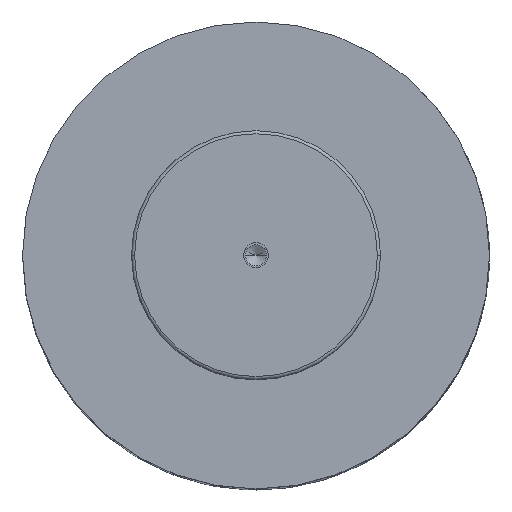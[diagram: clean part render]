
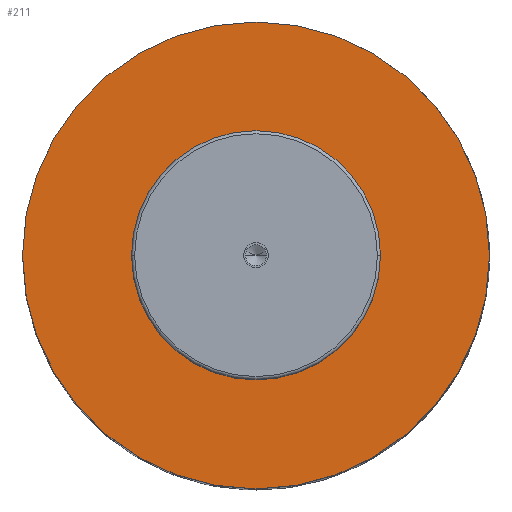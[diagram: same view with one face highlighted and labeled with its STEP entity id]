
A CAD part, top view. The second image highlights one B-rep face of the part: STEP entity #211.
In plain terms, the highlighted planar face has unit normal (0, 0, 1).
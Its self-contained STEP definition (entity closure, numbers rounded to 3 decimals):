
#109=PLANE('',#1266);
#138=FACE_BOUND('',#359,.T.);
#139=FACE_BOUND('',#360,.T.);
#211=ADVANCED_FACE('',(#138,#139),#109,.T.);
#359=EDGE_LOOP('',(#571,#572));
#360=EDGE_LOOP('',(#573,#574));
#451=CIRCLE('',#1260,40.);
#452=CIRCLE('',#1262,40.);
#453=CIRCLE('',#1264,75.);
#454=CIRCLE('',#1265,75.);
#571=ORIENTED_EDGE('',*,*,#970,.F.);
#572=ORIENTED_EDGE('',*,*,#971,.F.);
#573=ORIENTED_EDGE('',*,*,#969,.T.);
#574=ORIENTED_EDGE('',*,*,#967,.T.);
#856=VERTEX_POINT('',#1837);
#857=VERTEX_POINT('',#1839);
#858=VERTEX_POINT('',#1845);
#859=VERTEX_POINT('',#1846);
#967=EDGE_CURVE('',#857,#856,#451,.T.);
#969=EDGE_CURVE('',#856,#857,#452,.T.);
#970=EDGE_CURVE('',#858,#859,#453,.T.);
#971=EDGE_CURVE('',#859,#858,#454,.T.);
#1260=AXIS2_PLACEMENT_3D('',#1838,#1456,#1457);
#1262=AXIS2_PLACEMENT_3D('',#1842,#1461,#1462);
#1264=AXIS2_PLACEMENT_3D('',#1844,#1465,#1466);
#1265=AXIS2_PLACEMENT_3D('',#1847,#1467,#1468);
#1266=AXIS2_PLACEMENT_3D('',#1848,#1469,#1470);
#1456=DIRECTION('',(0.,0.,-1.));
#1457=DIRECTION('',(0.,1.,0.));
#1461=DIRECTION('',(0.,0.,-1.));
#1462=DIRECTION('',(0.,-1.,0.));
#1465=DIRECTION('',(0.,0.,-1.));
#1466=DIRECTION('',(0.,1.,0.));
#1467=DIRECTION('',(0.,0.,-1.));
#1468=DIRECTION('',(0.,-1.,0.));
#1469=DIRECTION('',(0.,0.,1.));
#1470=DIRECTION('',(0.,-1.,0.));
#1837=CARTESIAN_POINT('',(-40.,0.,202.));
#1838=CARTESIAN_POINT('',(0.,0.,202.));
#1839=CARTESIAN_POINT('',(40.,0.,202.));
#1842=CARTESIAN_POINT('',(0.,0.,202.));
#1844=CARTESIAN_POINT('',(0.,0.,202.));
#1845=CARTESIAN_POINT('',(75.,0.,202.));
#1846=CARTESIAN_POINT('',(-75.,0.,202.));
#1847=CARTESIAN_POINT('',(0.,0.,202.));
#1848=CARTESIAN_POINT('',(0.,0.,202.));
